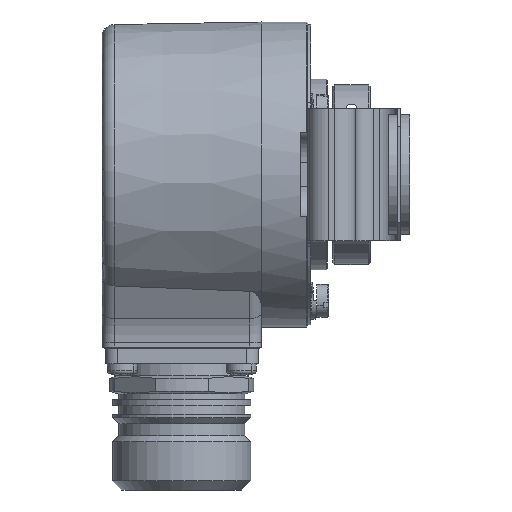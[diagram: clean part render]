
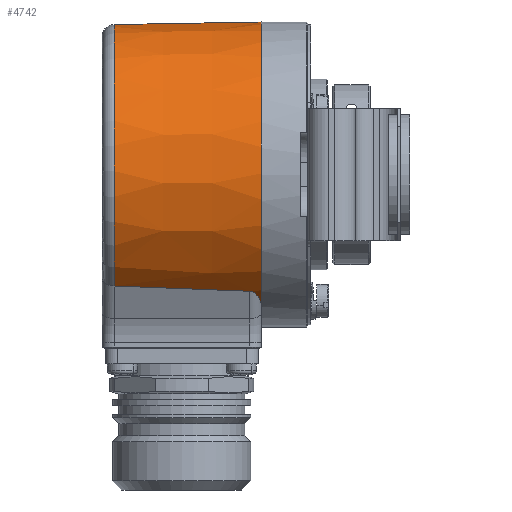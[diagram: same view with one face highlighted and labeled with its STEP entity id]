
A CAD part, front view. The second image highlights one B-rep face of the part: STEP entity #4742.
In plain terms, the highlighted conical face has half-angle 1 degrees and reference radius 25.4 mm.
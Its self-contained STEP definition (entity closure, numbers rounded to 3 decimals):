
#4737 = VERTEX_POINT ( 'NONE', #20003 ) ;
#4742 = ADVANCED_FACE ( 'NONE', ( #19997 ), #20037, .T. ) ;
#4743 = EDGE_CURVE ( 'NONE', #4744, #4737, #20025, .T. ) ;
#4744 = VERTEX_POINT ( 'NONE', #20024 ) ;
#4821 = EDGE_CURVE ( 'NONE', #4828, #4829, #20382, .T. ) ;
#4828 = VERTEX_POINT ( 'NONE', #20352 ) ;
#4829 = VERTEX_POINT ( 'NONE', #20351 ) ;
#4929 = VERTEX_POINT ( 'NONE', #20652 ) ;
#4931 = EDGE_CURVE ( 'NONE', #4937, #4929, #20676, .T. ) ;
#4937 = VERTEX_POINT ( 'NONE', #20681 ) ;
#5123 = ORIENTED_EDGE ( 'NONE', *, *, #5124, .T. ) ;
#5124 = EDGE_CURVE ( 'NONE', #4829, #4929, #20970, .T. ) ;
#5162 = EDGE_LOOP ( 'NONE', ( #5190, #5208, #5163, #5206, #5207, #5123 ) ) ;
#5163 = ORIENTED_EDGE ( 'NONE', *, *, #4743, .T. ) ;
#5190 = ORIENTED_EDGE ( 'NONE', *, *, #4931, .F. ) ;
#5206 = ORIENTED_EDGE ( 'NONE', *, *, #5279, .F. ) ;
#5207 = ORIENTED_EDGE ( 'NONE', *, *, #4821, .T. ) ;
#5208 = ORIENTED_EDGE ( 'NONE', *, *, #5222, .T. ) ;
#5222 = EDGE_CURVE ( 'NONE', #4937, #4744, #21251, .T. ) ;
#5279 = EDGE_CURVE ( 'NONE', #4828, #4737, #21297, .T. ) ;
#19997 = FACE_OUTER_BOUND ( 'NONE', #5162, .T. ) ;
#20003 = CARTESIAN_POINT ( 'NONE',  ( -19., -16.728, -18.542 ) ) ;
#20020 = CARTESIAN_POINT ( 'NONE',  ( -19., -16.728, -18.542 ) ) ;
#20021 = CARTESIAN_POINT ( 'NONE',  ( -19.012, -16.728, -18.541 ) ) ;
#20022 = CARTESIAN_POINT ( 'NONE',  ( -19.023, -16.728, -18.541 ) ) ;
#20023 = CARTESIAN_POINT ( 'NONE',  ( -19.035, -16.728, -18.541 ) ) ;
#20024 = CARTESIAN_POINT ( 'NONE',  ( -19.035, -16.728, -18.541 ) ) ;
#20025 = B_SPLINE_CURVE_WITH_KNOTS ( 'NONE', 3,
 ( #20023, #20022, #20021, #20020 ),
 .UNSPECIFIED., .F., .F.,
 ( 4, 4 ),
 ( 0., 0. ),
 .UNSPECIFIED. ) ;
#20034 = DIRECTION ( 'NONE',  ( 0., 0., 1. ) ) ;
#20035 = DIRECTION ( 'NONE',  ( 1., 0., 0. ) ) ;
#20036 = AXIS2_PLACEMENT_3D ( 'NONE', #20038, #20035, #20034 ) ;
#20037 = CONICAL_SURFACE ( 'NONE', #20036, 25.4, 0.017 ) ;
#20038 = CARTESIAN_POINT ( 'NONE',  ( 5.5, 0., 0. ) ) ;
#20351 = CARTESIAN_POINT ( 'NONE',  ( 5.5, -12.989, -21.828 ) ) ;
#20352 = CARTESIAN_POINT ( 'NONE',  ( 3.5, -16.319, -19.418 ) ) ;
#20358 = CARTESIAN_POINT ( 'NONE',  ( 5.5, -12.989, -21.828 ) ) ;
#20359 = CARTESIAN_POINT ( 'NONE',  ( 5.5, -13.341, -21.618 ) ) ;
#20360 = CARTESIAN_POINT ( 'NONE',  ( 5.461, -13.682, -21.403 ) ) ;
#20361 = CARTESIAN_POINT ( 'NONE',  ( 5.317, -14.347, -20.96 ) ) ;
#20362 = CARTESIAN_POINT ( 'NONE',  ( 5.21, -14.672, -20.731 ) ) ;
#20366 = CARTESIAN_POINT ( 'NONE',  ( 4.995, -15.13, -20.392 ) ) ;
#20367 = CARTESIAN_POINT ( 'NONE',  ( 4.914, -15.278, -20.28 ) ) ;
#20368 = CARTESIAN_POINT ( 'NONE',  ( 4.727, -15.562, -20.058 ) ) ;
#20369 = CARTESIAN_POINT ( 'NONE',  ( 4.62, -15.701, -19.947 ) ) ;
#20370 = CARTESIAN_POINT ( 'NONE',  ( 4.436, -15.89, -19.792 ) ) ;
#20371 = CARTESIAN_POINT ( 'NONE',  ( 4.37, -15.95, -19.742 ) ) ;
#20372 = CARTESIAN_POINT ( 'NONE',  ( 4.228, -16.062, -19.648 ) ) ;
#20373 = CARTESIAN_POINT ( 'NONE',  ( 4.151, -16.115, -19.603 ) ) ;
#20374 = CARTESIAN_POINT ( 'NONE',  ( 3.902, -16.252, -19.484 ) ) ;
#20375 = CARTESIAN_POINT ( 'NONE',  ( 3.708, -16.315, -19.426 ) ) ;
#20376 = CARTESIAN_POINT ( 'NONE',  ( 3.5, -16.319, -19.418 ) ) ;
#20382 = B_SPLINE_CURVE_WITH_KNOTS ( 'NONE', 3,
 ( #20376, #20375, #20374, #20373, #20372, #20371, #20370, #20369, #20368, #20367, #20366, #20362, #20361, #20360, #20359, #20358 ),
 .UNSPECIFIED., .F., .F.,
 ( 4, 2, 2, 2, 2, 2, 2, 4 ),
 ( 0., 0.001, 0.001, 0.001, 0.002, 0.002, 0.004, 0.005 ),
 .UNSPECIFIED. ) ;
#20652 = CARTESIAN_POINT ( 'NONE',  ( 5.5, 0., 25.4 ) ) ;
#20673 = DIRECTION ( 'NONE',  ( 1., 0., 0.017 ) ) ;
#20674 = VECTOR ( 'NONE', #20673, 1000. ) ;
#20675 = CARTESIAN_POINT ( 'NONE',  ( 5.5, 0., 25.4 ) ) ;
#20676 = LINE ( 'NONE', #20675, #20674 ) ;
#20681 = CARTESIAN_POINT ( 'NONE',  ( -19.035, 0., 24.972 ) ) ;
#20966 = DIRECTION ( 'NONE',  ( 0., 0., -1. ) ) ;
#20967 = DIRECTION ( 'NONE',  ( -1., 0., 0. ) ) ;
#20968 = CARTESIAN_POINT ( 'NONE',  ( 5.5, 0., 0. ) ) ;
#20969 = AXIS2_PLACEMENT_3D ( 'NONE', #20968, #20967, #20966 ) ;
#20970 = CIRCLE ( 'NONE', #20969, 25.4 ) ;
#21247 = DIRECTION ( 'NONE',  ( 0., 0., -1. ) ) ;
#21248 = DIRECTION ( 'NONE',  ( 1., 0., 0. ) ) ;
#21249 = CARTESIAN_POINT ( 'NONE',  ( -19.035, 0., 0. ) ) ;
#21250 = AXIS2_PLACEMENT_3D ( 'NONE', #21249, #21248, #21247 ) ;
#21251 = CIRCLE ( 'NONE', #21250, 24.972 ) ;
#21297 = B_SPLINE_CURVE_WITH_KNOTS ( 'NONE', 3,
 ( #21456, #21455, #21454, #21453 ),
 .UNSPECIFIED., .F., .F.,
 ( 4, 4 ),
 ( 0.002, 0.025 ),
 .UNSPECIFIED. ) ;
#21453 = CARTESIAN_POINT ( 'NONE',  ( -19., -16.728, -18.542 ) ) ;
#21454 = CARTESIAN_POINT ( 'NONE',  ( -11.501, -16.586, -18.846 ) ) ;
#21455 = CARTESIAN_POINT ( 'NONE',  ( -4.001, -16.45, -19.137 ) ) ;
#21456 = CARTESIAN_POINT ( 'NONE',  ( 3.5, -16.319, -19.418 ) ) ;
